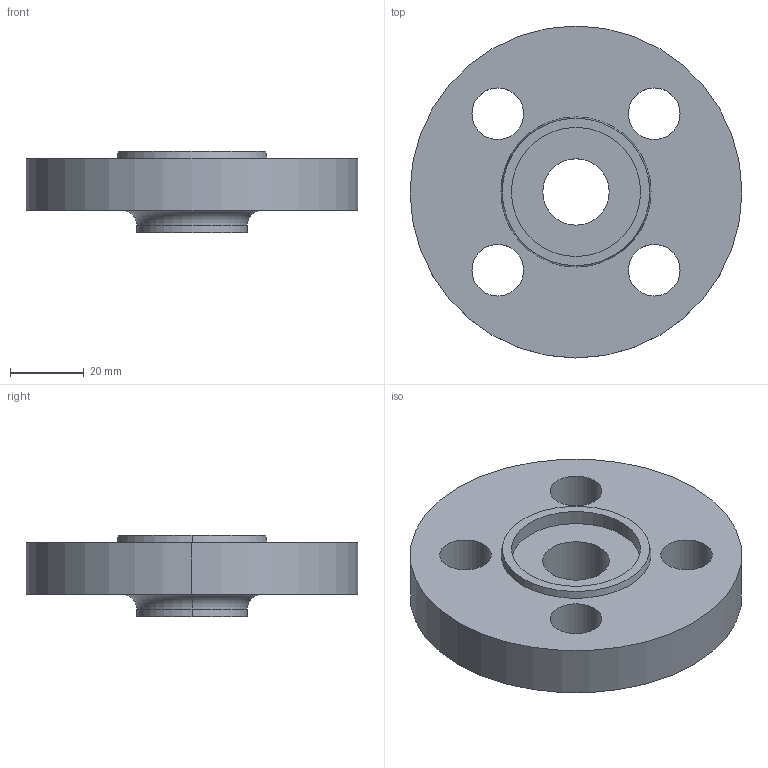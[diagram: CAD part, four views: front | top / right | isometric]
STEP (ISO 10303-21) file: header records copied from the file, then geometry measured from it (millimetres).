
FILE_DESCRIPTION (( 'STEP AP214' ), '1' );
FILE_NAME ('PN40 DN10 Type 12 - Type F Face.STEP', '2018-12-29T04:00:57', ( '' ), ( '' ), 'SwSTEP 2.0', 'SolidWorks 2019', '' );
FILE_SCHEMA (( 'AUTOMOTIVE_DESIGN' ));
Length unit declared in the file: millimetre
Products named in the file (1): PN40 DN10 Type 12 - Type F Face
Bounding box: 90 x 90 x 22 mm (x, y, z)
Volume: 79156.6 mm3; surface area: 19485.7 mm2
Topology: 1 solids, 1 shells, 25 faces, 58 edges, 38 vertices
Faces by surface type: cylinder 16, plane 5, torus 2, cone 2
Entity records: 790 total; most frequent: DIRECTION 150, CARTESIAN_POINT 122, ORIENTED_EDGE 116, AXIS2_PLACEMENT_3D 66, EDGE_CURVE 58, CIRCLE 40, EDGE_LOOP 38, VERTEX_POINT 38
